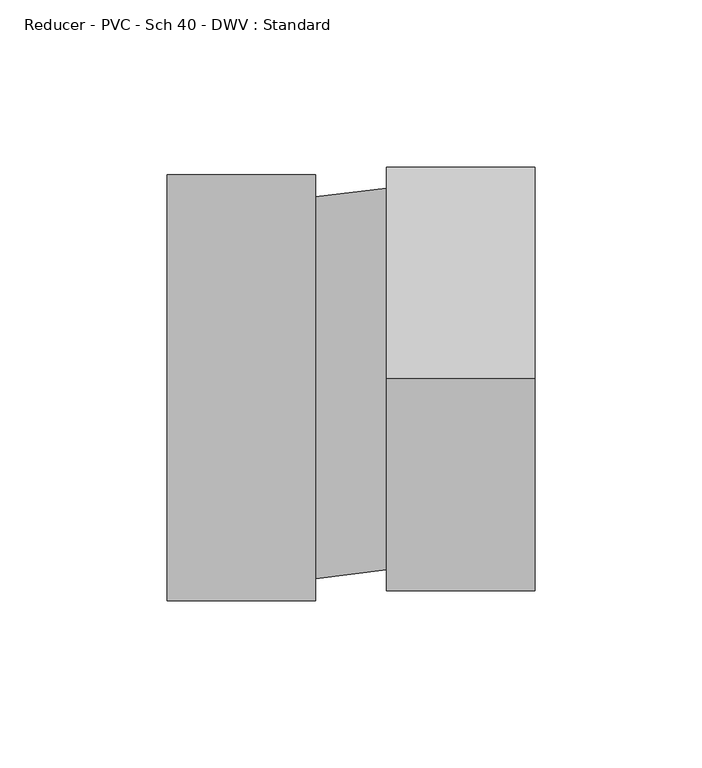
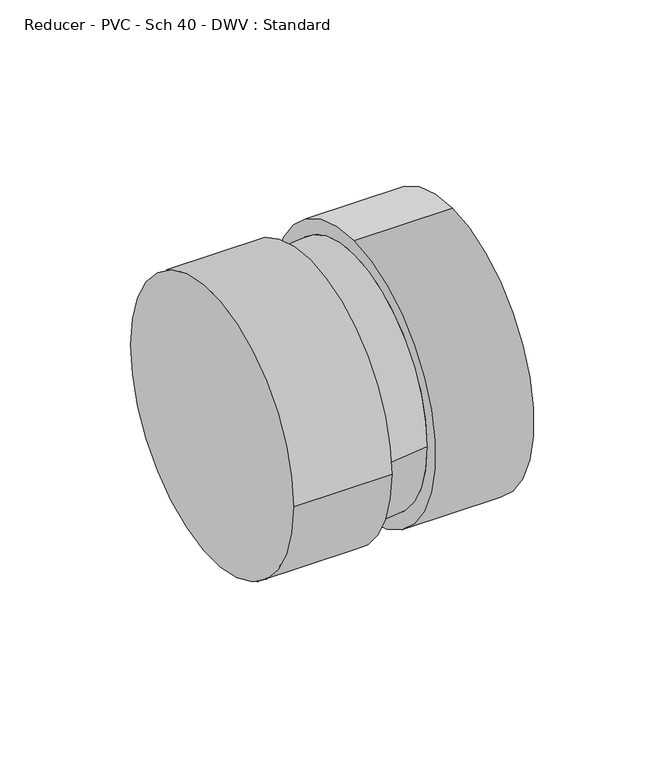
"""IFC4 building model written with IfcOpenShell, lengths in millimetres: pipe fitting geometry, Reducer - PVC - Sch 40 - DWV : Standard."""

import ifcopenshell
import ifcopenshell.guid

model = None  # the IFC model being written
_history = None  # IfcOwnerHistory: only IFC2X3 demands one
_inside = {}  # id of a spatial element -> (the spatial element, [elements in it])
_under = {}  # id of a project, library or spatial element -> (it, [spatial elements below it])
_declared = {}  # id of a project -> (the project, [libraries it declares])
_typed = {}  # id of a type object -> (the type object, [elements of that type])
_made_of = {}  # id of a material, layer set ... -> (it, [elements and type objects made of it])


def new_model(schema):
    """Start an empty IFC model of exactly this schema.

    Asked for "IFC4X3", IfcOpenShell would pick the latest addendum, in which some entities
    have other attributes; the version numbers below select the first issue.
    IFC2X3 requires an IfcOwnerHistory on every rooted entity: one is made here for all.
    """
    global model, _history
    if schema == "IFC4X3":
        model = ifcopenshell.file(schema_version=(4, 3, 0, 0))
    else:
        model = ifcopenshell.file(schema=schema)
    _inside.clear()
    _under.clear()
    _declared.clear()
    _typed.clear()
    _made_of.clear()
    _history = None
    if model.schema == "IFC2X3":
        org = make("IfcOrganization", Name="unknown")
        user = make(
            "IfcPersonAndOrganization",
            ThePerson=make("IfcPerson", FamilyName="unknown"),
            TheOrganization=org,
        )
        app = make(
            "IfcApplication",
            ApplicationDeveloper=org,
            Version="unknown",
            ApplicationFullName="unknown",
            ApplicationIdentifier="unknown",
        )
        _history = make(
            "IfcOwnerHistory",
            OwningUser=user,
            OwningApplication=app,
            ChangeAction="ADDED",
            CreationDate=0,
        )
    return model


def make(cls, **values):
    """One entity of the class cls with the attributes given. An attribute that is None is left unset."""
    return model.create_entity(
        cls, **{name: value for name, value in values.items() if value is not None}
    )


def rooted(cls, **values):
    """An entity with a GlobalId (a new one), such as an element, a storey or a relation."""
    return make(cls, GlobalId=ifcopenshell.guid.new(), OwnerHistory=_history, **values)


def si_unit(unit_type, name, prefix=None):
    """IfcSIUnit, for example si_unit("LENGTHUNIT", "METRE", prefix="MILLI")."""
    return make("IfcSIUnit", UnitType=unit_type, Prefix=prefix, Name=name)


def assignment(units):
    """IfcUnitAssignment: the units of a project."""
    return None if units is None else make("IfcUnitAssignment", Units=units)


def point(xyz):
    """IfcCartesianPoint."""
    return None if xyz is None else make("IfcCartesianPoint", Coordinates=xyz)


def direction(xyz):
    """IfcDirection."""
    return None if xyz is None else make("IfcDirection", DirectionRatios=xyz)


def frame(location, z_axis=None, x_axis=None):
    """IfcAxis2Placement3D, a coordinate frame: its origin and axes. An axis left out is left unset."""
    return make(
        "IfcAxis2Placement3D",
        Location=point(location),
        Axis=direction(z_axis),
        RefDirection=direction(x_axis),
    )


def origin():
    """The frame at (0, 0, 0) with its axes left unset."""
    return frame((0.0, 0.0, 0.0))


def place(relative_to, where):
    """IfcLocalPlacement: puts the frame where relative to a parent placement (None: the world)."""
    return make(
        "IfcLocalPlacement", PlacementRelTo=relative_to, RelativePlacement=where
    )


def context(
    kind, dimensions, precision=None, world=None, true_north=None, identifier=None
):
    """IfcGeometricRepresentationContext, for example the 3D "Model" context."""
    return make(
        "IfcGeometricRepresentationContext",
        ContextIdentifier=identifier,
        ContextType=kind,
        CoordinateSpaceDimension=dimensions,
        Precision=precision,
        WorldCoordinateSystem=world,
        TrueNorth=true_north,
    )


def project(units=None, contexts=None):
    """IfcProject with its units and contexts."""
    return rooted(
        "IfcProject",
        Name="project",
        RepresentationContexts=contexts,
        UnitsInContext=assignment(units),
    )


def spatial(cls, under=None, at=None, **own):
    """A site, building, storey or space (cls), placed at a placement, below another one or the project."""
    s = rooted(cls, ObjectPlacement=at, **own)
    if under is not None:
        _under.setdefault(under.id(), (under, []))[1].append(s)
    return s


def circle_curve(where, radius):
    """IfcCircle in the frame where."""
    return make("IfcCircle", Position=where, Radius=radius)


def trimmed(basis, trim1, trim2, sense, master):
    """IfcTrimmedCurve: the piece of a basis curve between two trims."""
    return make(
        "IfcTrimmedCurve",
        BasisCurve=basis,
        Trim1=trim1,
        Trim2=trim2,
        SenseAgreement=sense,
        MasterRepresentation=master,
    )


def shape(context_of_items, identifier, shape_type, items):
    """IfcShapeRepresentation: the items that make up one representation, for example the "Body"."""
    return make(
        "IfcShapeRepresentation",
        ContextOfItems=context_of_items,
        RepresentationIdentifier=identifier,
        RepresentationType=shape_type,
        Items=items,
    )


def source(mapping_origin, context_of_items, identifier, shape_type, items):
    """IfcRepresentationMap: a shape defined once, which mapped items show again and again."""
    return make(
        "IfcRepresentationMap",
        MappingOrigin=mapping_origin,
        MappedRepresentation=shape(context_of_items, identifier, shape_type, items),
    )


def transform(
    local_origin,
    x_axis=None,
    y_axis=None,
    z_axis=None,
    scale=None,
    scale2=None,
    scale3=None,
    uniform=True,
):
    """IfcCartesianTransformationOperator3D, or its non-uniform kind. x_axis, y_axis, z_axis: its Axis1, 2, 3."""
    if uniform:
        return make(
            "IfcCartesianTransformationOperator3D",
            Axis1=direction(x_axis),
            Axis2=direction(y_axis),
            LocalOrigin=point(local_origin),
            Scale=scale,
            Axis3=direction(z_axis),
        )
    return make(
        "IfcCartesianTransformationOperator3DnonUniform",
        Axis1=direction(x_axis),
        Axis2=direction(y_axis),
        LocalOrigin=point(local_origin),
        Scale=scale,
        Axis3=direction(z_axis),
        Scale2=scale2,
        Scale3=scale3,
    )


def mapped(mapping_source, mapping_target):
    """IfcMappedItem: shows the shape of a source again, moved by a transform."""
    return make(
        "IfcMappedItem", MappingSource=mapping_source, MappingTarget=mapping_target
    )


def made_of(thing, what):
    """Note that an element or type object is made of a material, layer set ...; save() writes the relation."""
    if what is not None:
        _made_of.setdefault(what.id(), (what, []))[1].append(thing)
    return thing


def element(
    cls,
    number,
    at=None,
    inside=None,
    cuts=None,
    type_object=None,
    material=None,
    context=None,
    identifier="Body",
    shape_type=None,
    held_by="IfcProductDefinitionShape",
    body=None,
    shapes=None,
    **own,
):
    """One element of the class cls, such as IfcWall. Its Tag is "e" and its number.

    at: its placement. inside: the storey or other place that contains it. cuts: it is an
    opening in that element (IfcRelVoidsElement). A single representation is given by context,
    identifier, shape_type and body (its items); several are given by shapes. held_by: the class
    of the entity that holds the representations. save() writes the other relations.
    """
    e = rooted(cls, Tag="e%d" % number, ObjectPlacement=at, **own)
    if body is not None:
        shapes = [shape(context, identifier, shape_type, body)]
    if shapes is not None:
        e.Representation = make(held_by, Representations=shapes)
    if inside is not None:
        _inside.setdefault(inside.id(), (inside, []))[1].append(e)
    if cuts is not None:
        rooted(
            "IfcRelVoidsElement", RelatingBuildingElement=cuts, RelatedOpeningElement=e
        )
    if type_object is not None:
        _typed.setdefault(type_object.id(), (type_object, []))[1].append(e)
    return made_of(e, material)


def aggregate(whole, parts):
    """IfcRelAggregates: a whole, such as a stair, and the parts it consists of."""
    return rooted("IfcRelAggregates", RelatingObject=whole, RelatedObjects=parts)


def save(model, path):
    """Write the relations noted so far, then the file.

    IfcRelAggregates (storeys below a building ...), IfcRelContainedInSpatialStructure (elements
    in a storey), IfcRelDefinesByType, IfcRelAssociatesMaterial and IfcRelDeclares: one each for
    every whole, place, type object, material and project.
    """
    for whole, parts in _under.values():
        aggregate(whole, parts)
    for where, things in _inside.values():
        rooted(
            "IfcRelContainedInSpatialStructure",
            RelatedElements=things,
            RelatingStructure=where,
        )
    for kind, things in _typed.values():
        rooted("IfcRelDefinesByType", RelatedObjects=things, RelatingType=kind)
    for what, things in _made_of.values():
        rooted("IfcRelAssociatesMaterial", RelatedObjects=things, RelatingMaterial=what)
    for by, libraries in _declared.values():
        rooted("IfcRelDeclares", RelatingContext=by, RelatedDefinitions=libraries)
    model.write(path)


def plane_surface(at):
    """IfcPlane: the flat surface through the origin of the frame at, square to its z axis."""
    return make("IfcPlane", Position=at)


def cylinder_surface(at, radius):
    """IfcCylindricalSurface: all points at the distance radius from the z axis of the frame at."""
    return make("IfcCylindricalSurface", Position=at, Radius=radius)


def extruded_surface(curve, direction_of_extrusion, depth):
    """IfcSurfaceOfLinearExtrusion: the curve pushed along a direction by depth."""
    return make(
        "IfcSurfaceOfLinearExtrusion",
        SweptCurve=make("IfcArbitraryOpenProfileDef", ProfileType="CURVE", Curve=curve),
        ExtrudedDirection=direction(direction_of_extrusion),
        Depth=depth,
    )


def advanced_brep(points, edges, surfaces, faces):
    """IfcAdvancedBrep: a solid bounded by faces that lie on surfaces and meet in shared edges.

    An edge is (start, end): straight between two places in points (the first is 0);
    or (start, end, curve); or (start, end, curve, False) where it runs against its curve.
    A face is (place in surfaces, loops), or (place, loops, False) where it looks against
    its surface's normal. A loop lists edges by number (the first is 1), with a minus sign
    where the edge is run from its end to its start. The first loop is the outer one.
    """
    corners = [point(p) for p in points]
    vertices = [make("IfcVertexPoint", VertexGeometry=c) for c in corners]
    made = []
    for start, end, *more in edges:
        made.append(
            make(
                "IfcEdgeCurve",
                EdgeStart=vertices[start],
                EdgeEnd=vertices[end],
                EdgeGeometry=more[0] if more else make("IfcPolyline", Points=[corners[start], corners[end]]),
                SameSense=more[1] if len(more) > 1 else True,
            )
        )
    hull = []
    for where, loops, *sense in faces:
        bounds = []
        for j, loop in enumerate(loops):
            ring = [make("IfcOrientedEdge", EdgeElement=made[abs(k) - 1], Orientation=k > 0) for k in loop]
            bounds.append(
                make(
                    "IfcFaceOuterBound" if j == 0 else "IfcFaceBound",
                    Bound=make("IfcEdgeLoop", EdgeList=ring),
                    Orientation=True,
                )
            )
        hull.append(make("IfcAdvancedFace", Bounds=bounds, FaceSurface=surfaces[where], SameSense=sense[0] if sense else True))
    return make("IfcAdvancedBrep", Outer=make("IfcClosedShell", CfsFaces=hull))


def reducer_pvc_sch_40_dwv_standard_716ddad6(model_context):
    return source(origin(), model_context, "Body", "AdvancedBrep", [
        advanced_brep(
        [(0.0, 63.754, 0.0), (0.0, -63.754, 0.0), (44.45, 63.754, 0.0), (44.45, -63.754, 0.0), (44.45, -57.15, 0.0), (44.45, 57.15, 0.0), (65.7740938, 59.8177764, 0.0), (65.7740938, -54.4822236, 0.0), (65.7740938, 2.6677764, 63.754), (65.7740938, 2.6677764, -63.754), (110.2240938, 2.6677764, 63.754), (110.2240938, 2.6677764, -63.754)],
        [
            (0, 1, circle_curve(frame((0.0, 0.0, 0.0), z_axis=(-1.0, 0.0, 0.0), x_axis=(0.0, -1.0, 0.0)), 63.754)),
            (1, 0, circle_curve(frame((0.0, 0.0, 0.0), z_axis=(-1.0, 0.0, 0.0), x_axis=(0.0, -1.0, 0.0)), 63.754)),
            (2, 3, circle_curve(frame((44.45, 0.0, 0.0), z_axis=(1.0, 0.0, 0.0), x_axis=(0.0, -1.0, 0.0)), 63.754)),
            (3, 2, circle_curve(frame((44.45, 0.0, 0.0), z_axis=(1.0, 0.0, 0.0), x_axis=(0.0, -1.0, 0.0)), 63.754)),
            (4, 5, circle_curve(frame((44.45, 0.0, 0.0), z_axis=(-1.0, 0.0, 0.0), x_axis=(0.0, -1.0, 0.0)), 57.15)),
            (5, 4, circle_curve(frame((44.45, 0.0, 0.0), z_axis=(-1.0, 0.0, 0.0), x_axis=(0.0, -1.0, 0.0)), 57.15)),
            (1, 3),
            (2, 0),
            (5, 6),
            (6, 7, circle_curve(frame((65.7740938, 2.6677764, 0.0), z_axis=(-1.0, 0.0, 0.0), x_axis=(0.0, -1.0, 0.0)), 57.15)),
            (7, 4),
            (7, 6, circle_curve(frame((65.7740938, 2.6677764, 0.0), z_axis=(-1.0, 0.0, 0.0), x_axis=(0.0, -1.0, 0.0)), 57.15)),
            (8, 9, circle_curve(frame((65.7740938, 2.6677764, 0.0), z_axis=(-1.0, 0.0, 0.0), x_axis=(0.0, 0.0, -1.0)), 63.754)),
            (9, 8, circle_curve(frame((65.7740938, 2.6677764, 0.0), z_axis=(-1.0, 0.0, 0.0), x_axis=(0.0, 0.0, -1.0)), 63.754)),
            (10, 11, circle_curve(frame((110.2240938, 2.6677764, 0.0), z_axis=(1.0, 0.0, 0.0), x_axis=(0.0, 0.0, -1.0)), 63.754)),
            (11, 10, circle_curve(frame((110.2240938, 2.6677764, 0.0), z_axis=(1.0, 0.0, 0.0), x_axis=(0.0, 0.0, -1.0)), 63.754)),
            (9, 11),
            (10, 8),
        ],
        [
            plane_surface(frame((0.0, 0.0, 0.0), z_axis=(-1.0, 0.0, 0.0), x_axis=(0.0, 0.0, 1.0))),
            plane_surface(frame((44.45, 0.0, 0.0), z_axis=(1.0, 0.0, 0.0), x_axis=(0.0, 0.0, 1.0))),
            cylinder_surface(frame((0.0, 0.0, 0.0), z_axis=(-1.0, 0.0, 0.0), x_axis=(0.0, -1.0, 0.0)), 63.754),
            extruded_surface(trimmed(circle_curve(frame((65.7740938, 2.6677764, 0.0), z_axis=(-1.0, 0.0, 0.0), x_axis=(0.0, -1.0, 0.0)), 57.15), [point((65.7740938, 59.8177764, 0.0))], [point((65.7740938, -54.4822236, 0.0))], True, "CARTESIAN"), (-21.3240938, -2.6677764, 0.0), 21.490323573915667),
            extruded_surface(trimmed(circle_curve(frame((65.7740938, 2.6677764, 0.0), z_axis=(-1.0, 0.0, 0.0), x_axis=(0.0, -1.0, 0.0)), 57.15), [point((65.7740938, -54.4822236, 0.0))], [point((65.7740938, 59.8177764, 0.0))], True, "CARTESIAN"), (-21.3240938, -2.6677764, 0.0), 21.490323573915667),
            plane_surface(frame((65.7740938, 2.6677764, 0.0), z_axis=(-1.0, 0.0, 0.0), x_axis=(0.0, -1.0, 0.0))),
            plane_surface(frame((110.2240938, 2.6677764, 0.0), z_axis=(1.0, 0.0, 0.0), x_axis=(0.0, -1.0, 0.0))),
            cylinder_surface(frame((65.7740938, 2.6677764, 0.0), z_axis=(-1.0, 0.0, 0.0), x_axis=(0.0, 0.0, -1.0)), 63.754),
        ],
        [
            (0, [[1, 2]]),
            (1, [[3, 4], [5, 6]]),
            (2, [[7, -3, 8, -2]]),
            (2, [[-8, -4, -7, -1]]),
            (3, [[-6, 9, 10, 11]]),
            (4, [[12, -9, -5, -11]]),
            (5, [[13, 14], [-12, -10]]),
            (6, [[15, 16]]),
            (7, [[17, -15, 18, -14]]),
            (7, [[-18, -16, -17, -13]]),
        ],
    ),
    ])


if __name__ == "__main__":
    model = new_model("IFC4")
    model_context = context("Model", 3, world=origin())
    ifc_project = project(units=[si_unit("LENGTHUNIT", "METRE", prefix="MILLI")], contexts=[model_context])
    site = spatial("IfcSite", under=ifc_project)
    building = spatial("IfcBuilding", under=site)
    placement = place(None, origin())
    reducer_pvc_sch_40_dwv_standard_shape = reducer_pvc_sch_40_dwv_standard_716ddad6(model_context)
    element("IfcPipeFitting", 1, ObjectType="Reducer - PVC - Sch 40 - DWV : Standard", at=placement, inside=building, context=model_context, shape_type="MappedRepresentation", body=[
        mapped(reducer_pvc_sch_40_dwv_standard_shape, transform((0.0, 0.0, 0.0), x_axis=(1.0, 0.0, 0.0), y_axis=(0.0, 1.0, 0.0), z_axis=(0.0, 0.0, 1.0))),
    ])
    save(model, "model.ifc")
